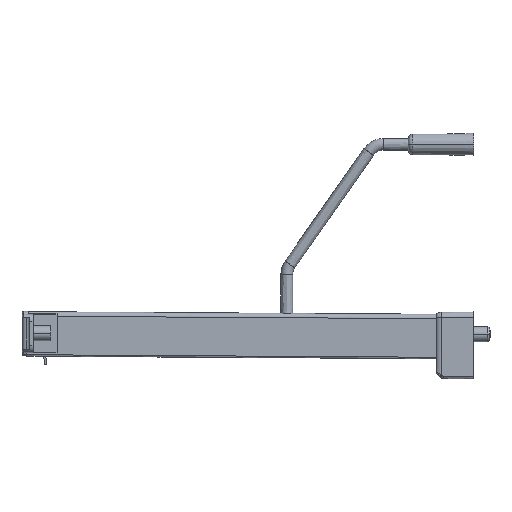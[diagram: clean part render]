
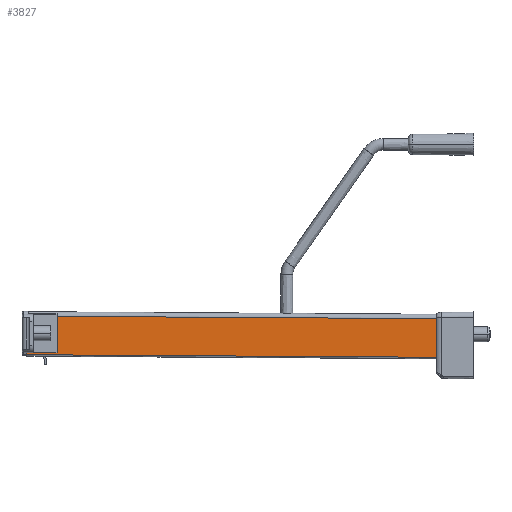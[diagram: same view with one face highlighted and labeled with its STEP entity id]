
A CAD part, left-side view. The second image highlights one B-rep face of the part: STEP entity #3827.
In plain terms, the highlighted planar face has unit normal (-1, 0, 0).
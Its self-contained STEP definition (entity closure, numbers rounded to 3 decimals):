
#1267 = EDGE_CURVE ( 'NONE', #3774, #3252, #2015, .T. ) ;
#1268 = EDGE_CURVE ( 'NONE', #3756, #3252, #2018, .T. ) ;
#1269 = EDGE_CURVE ( 'NONE', #3261, #3756, #2020, .T. ) ;
#1270 = EDGE_CURVE ( 'NONE', #3261, #3760, #2022, .T. ) ;
#1271 = EDGE_CURVE ( 'NONE', #3270, #3760, #2026, .T. ) ;
#1272 = EDGE_CURVE ( 'NONE', #3774, #3270, #2030, .T. ) ;
#1478 = AXIS2_PLACEMENT_3D ( 'NONE', #3362, #3363, #3364 ) ;
#2015 = LINE ( 'NONE', #2131, #2016 ) ;
#2016 = VECTOR ( 'NONE', #2133, 1000. ) ;
#2018 = LINE ( 'NONE', #2135, #2019 ) ;
#2019 = VECTOR ( 'NONE', #2136, 1000. ) ;
#2020 = LINE ( 'NONE', #2139, #2021 ) ;
#2021 = VECTOR ( 'NONE', #2142, 1000. ) ;
#2022 = LINE ( 'NONE', #2145, #2024 ) ;
#2024 = VECTOR ( 'NONE', #2146, 1000. ) ;
#2026 = LINE ( 'NONE', #2150, #2028 ) ;
#2028 = VECTOR ( 'NONE', #2153, 1000. ) ;
#2030 = LINE ( 'NONE', #2156, #2031 ) ;
#2031 = VECTOR ( 'NONE', #2158, 1000. ) ;
#2131 = CARTESIAN_POINT ( 'NONE',  ( -5.25, 334.11, 12.407 ) ) ;
#2133 = DIRECTION ( 'NONE',  ( 0., -1., -0.006 ) ) ;
#2135 = CARTESIAN_POINT ( 'NONE',  ( -5.25, 25., 15. ) ) ;
#2136 = DIRECTION ( 'NONE',  ( 0., 0., 1. ) ) ;
#2139 = CARTESIAN_POINT ( 'NONE',  ( -5.25, 334.27, -13.592 ) ) ;
#2142 = DIRECTION ( 'NONE',  ( 0., -1., -0.006 ) ) ;
#2145 = CARTESIAN_POINT ( 'NONE',  ( -5.25, 301.4, -13.592 ) ) ;
#2146 = DIRECTION ( 'NONE',  ( 0., 0., 1. ) ) ;
#2150 = CARTESIAN_POINT ( 'NONE',  ( -5.25, 280.9, -12.42 ) ) ;
#2153 = DIRECTION ( 'NONE',  ( 0., 1., 0. ) ) ;
#2156 = CARTESIAN_POINT ( 'NONE',  ( -5.25, 280.9, 13.6 ) ) ;
#2158 = DIRECTION ( 'NONE',  ( 0., 0., -1. ) ) ;
#2453 = FACE_OUTER_BOUND ( 'NONE', #5253, .T. ) ;
#3252 = VERTEX_POINT ( 'NONE', #5322 ) ;
#3261 = VERTEX_POINT ( 'NONE', #5331 ) ;
#3270 = VERTEX_POINT ( 'NONE', #5340 ) ;
#3361 = PLANE ( 'NONE',  #1478 ) ;
#3362 = CARTESIAN_POINT ( 'NONE',  ( -5.25, 334.27, -13.592 ) ) ;
#3363 = DIRECTION ( 'NONE',  ( 1., 0., 0. ) ) ;
#3364 = DIRECTION ( 'NONE',  ( 0., 0., 1. ) ) ;
#3598 = ORIENTED_EDGE ( 'NONE', *, *, #1272, .T. ) ;
#3599 = ORIENTED_EDGE ( 'NONE', *, *, #1271, .T. ) ;
#3600 = ORIENTED_EDGE ( 'NONE', *, *, #1270, .F. ) ;
#3601 = ORIENTED_EDGE ( 'NONE', *, *, #1269, .T. ) ;
#3602 = ORIENTED_EDGE ( 'NONE', *, *, #1268, .T. ) ;
#3603 = ORIENTED_EDGE ( 'NONE', *, *, #1267, .F. ) ;
#3756 = VERTEX_POINT ( 'NONE', #4974 ) ;
#3760 = VERTEX_POINT ( 'NONE', #4978 ) ;
#3774 = VERTEX_POINT ( 'NONE', #4992 ) ;
#3827 = ADVANCED_FACE ( 'NONE', ( #2453 ), #3361, .F. ) ;
#4974 = CARTESIAN_POINT ( 'NONE',  ( -5.25, 25., -15.5 ) ) ;
#4978 = CARTESIAN_POINT ( 'NONE',  ( -5.25, 301.4, -12.42 ) ) ;
#4992 = CARTESIAN_POINT ( 'NONE',  ( -5.25, 280.9, 12.079 ) ) ;
#5253 = EDGE_LOOP ( 'NONE', ( #3598, #3599, #3600, #3601, #3602, #3603 ) ) ;
#5322 = CARTESIAN_POINT ( 'NONE',  ( -5.25, 25., 10.501 ) ) ;
#5331 = CARTESIAN_POINT ( 'NONE',  ( -5.25, 301.4, -13.795 ) ) ;
#5340 = CARTESIAN_POINT ( 'NONE',  ( -5.25, 280.9, -12.42 ) ) ;
